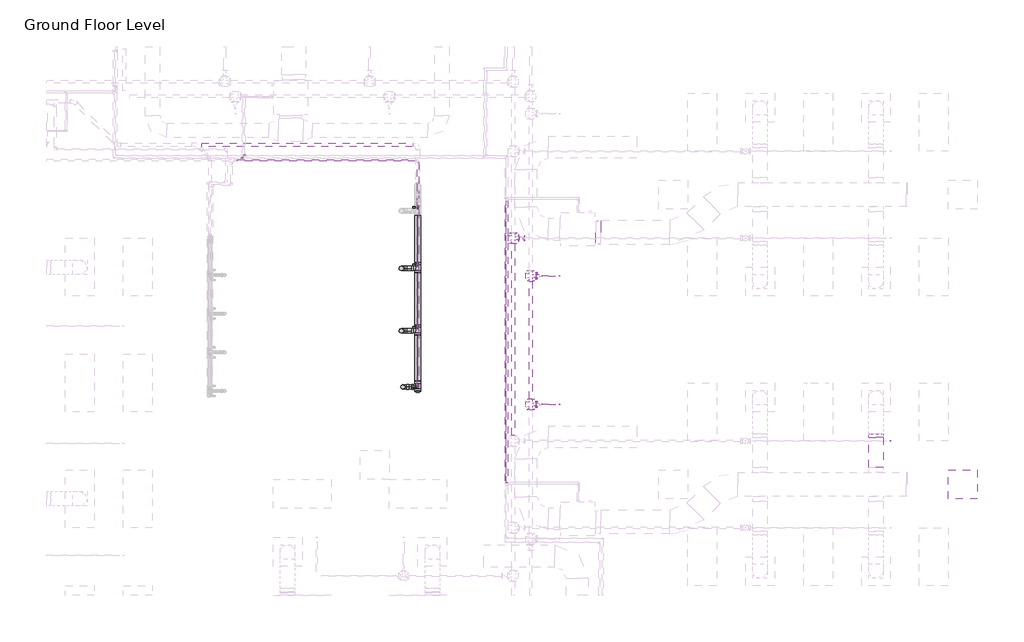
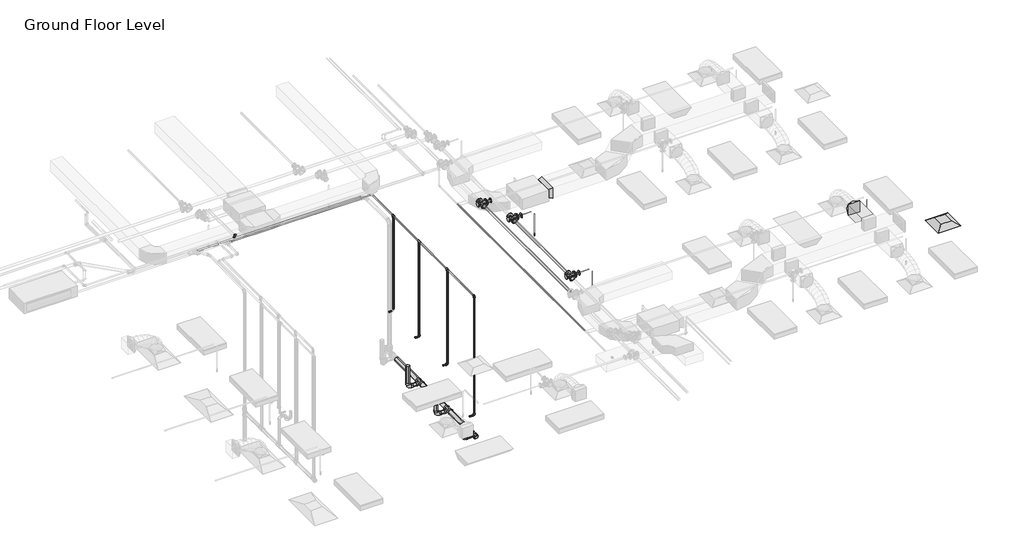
# One storey, part 65 of 74: 32 pipe segments, 24 pipe fittings, 3 fire suppression terminals, 2 duct fittings, 1 air terminal, 1 duct segment.
"""IFC4 building model written with IfcOpenShell, lengths in millimetres."""

from ifc_helpers import new_model, si_unit, point, frame, frame_2d, origin, place, context, project, spatial, polyline, circle_curve, trimmed, segment, composite_curve, outline, extrude, transform, mapped, element, save
from components import m_return_diffuser_600_x_600_face_300_x_300_connection_ff221211, m_rectangular_transition_angle_45_degree_2b595dfe, m_rectangular_to_round_transition_angle_45_degree_641efff0, m_sprinkler_dry_pendent_hosted_15_mm_dry_pendent_9bda8e11, m_sprinkler_pendent_15_mm_pendent_06fcbd8e, m_bend_pvc_sch_40_dwv_standard_a4b99d37, m_plug_pvc_sch_40_dwv_standard_6c40de1c, m_reducer_flanged_cs_class_150_standard_9dfe9ec5, m_reducer_flanged_cs_class_150_standard_a7631c35, m_tee_generic_standard_cdc1cff5, m_tee_generic_standard_bbfc025c, m_tee_reducing_sanitary_pvc_sch_40_dwv_standard_b49161a9, m_tee_round_base_flanged_cs_class_150_standard_dd767e04, m_transition_generic_standard_e9aec4dd, m_transition_generic_standard_c2658a33, standard_517a5a8d, standard_72b35c3b, standard_bfa7e4ca

model = new_model("IFC4")

# Units and contexts
model_context = context("Model", 3, world=origin())
ifc_project = project(units=[si_unit("LENGTHUNIT", "METRE", prefix="MILLI")], contexts=[model_context])

# Site, building, storey
site = spatial("IfcSite", under=ifc_project)
building = spatial("IfcBuilding", under=site)
storey = spatial("IfcBuildingStorey", under=building, Name="Ground Floor Level", Elevation=900.0)

# Air terminal
placement = place(None, origin())
m_return_diffuser_600_x_600_face_300_x_300_connection_shape = m_return_diffuser_600_x_600_face_300_x_300_connection_ff221211(model_context)
element("IfcAirTerminal", 1, ObjectType="M_Return Diffuser : 600 x 600 Face 300 x 300 Connection", at=placement, inside=storey, context=model_context, shape_type="MappedRepresentation", body=[
    mapped(m_return_diffuser_600_x_600_face_300_x_300_connection_shape, transform((14942.7672395, 6735.2153534, 3650.0), x_axis=(1.0, 0.0, 0.0), y_axis=(0.0, 1.0, 0.0), z_axis=(0.0, 0.0, 1.0))),
])

# Duct fittings
m_rectangular_transition_angle_45_degree_shape = m_rectangular_transition_angle_45_degree_2b595dfe(model_context)
element("IfcDuctFitting", 2, ObjectType="M_Rectangular Transition - Angle : 45 Degree", at=placement, inside=storey, context=model_context, shape_type="MappedRepresentation", body=[
    mapped(m_rectangular_transition_angle_45_degree_shape, transform((7344.2139492, 11956.1779527, 4100.0057729), x_axis=(1.0, 0.0, 0.0), y_axis=(0.0, 1.0, 0.0), z_axis=(0.0, 0.0, 1.0))),
])
m_rectangular_to_round_transition_angle_45_degree_shape = m_rectangular_to_round_transition_angle_45_degree_641efff0(model_context)
element("IfcDuctFitting", 3, ObjectType="M_Rectangular to Round Transition - Angle : 45 Degree", at=placement, inside=storey, context=model_context, shape_type="MappedRepresentation", body=[
    mapped(m_rectangular_to_round_transition_angle_45_degree_shape, transform((13142.7672395, 7707.8794221, 4100.0), x_axis=(0.0, 1.0, 0.0), y_axis=(-1.0, 0.0, 0.0), z_axis=(0.0, 0.0, 1.0))),
])

# Duct segment
element("IfcDuctSegment", 4, ObjectType="Radius Elbows / Taps", at=placement, inside=storey, context=model_context, shape_type="SweptSolid", body=[
    extrude(outline(polyline([(13292.7672395, 7086.8153534), (12992.7672395, 7086.8153534), (12992.7672395, 7707.8794221), (13292.7672395, 7707.8794221), (13292.7672395, 7086.8153534)])), frame((0.0, 0.0, 3950.0), z_axis=(0.0, 0.0, 1.0), x_axis=(1.0, 0.0, 0.0)), (0.0, 0.0, 1.0), 300.0),
])

# Fire suppression terminals
m_sprinkler_dry_pendent_hosted_15_mm_dry_pendent_shape = m_sprinkler_dry_pendent_hosted_15_mm_dry_pendent_9bda8e11(model_context)
element("IfcFireSuppressionTerminal", 5, ObjectType="M_Sprinkler - Dry - Pendent - Hosted : 15 mm Dry Pendent", at=placement, inside=storey, context=model_context, shape_type="MappedRepresentation", body=[
    mapped(m_sprinkler_dry_pendent_hosted_15_mm_dry_pendent_shape, transform((13442.7672395, 7635.2153534, 3650.0), x_axis=(1.0, 0.0, 0.0), y_axis=(0.0, -1.0, 0.0), z_axis=(0.0, 0.0, -1.0))),
])
m_sprinkler_pendent_15_mm_pendent_shape = m_sprinkler_pendent_15_mm_pendent_06fcbd8e(model_context)
element("IfcFireSuppressionTerminal", 6, ObjectType="M_Sprinkler - Pendent : 15 mm Pendent", at=placement, inside=storey, context=model_context, shape_type="MappedRepresentation", body=[
    mapped(m_sprinkler_pendent_15_mm_pendent_shape, transform((6592.5481019, 11054.9808263, 3650.0), x_axis=(1.0, 0.0, 0.0), y_axis=(0.0, 1.0, 0.0), z_axis=(0.0, 0.0, 1.0))),
])
element("IfcFireSuppressionTerminal", 7, ObjectType="M_Sprinkler - Pendent : 15 mm Pendent", at=placement, inside=storey, context=model_context, shape_type="MappedRepresentation", body=[
    mapped(m_sprinkler_pendent_15_mm_pendent_shape, transform((6592.5481019, 8393.5579106, 3650.0), x_axis=(1.0, 0.0, 0.0), y_axis=(0.0, 1.0, 0.0), z_axis=(0.0, 0.0, 1.0))),
])

# Pipe fittings
m_bend_pvc_sch_40_dwv_standard_shape = m_bend_pvc_sch_40_dwv_standard_a4b99d37(model_context)
element("IfcPipeFitting", 8, ObjectType="M_Bend - PVC - Sch 40 - DWV : Standard", at=placement, inside=storey, context=model_context, shape_type="MappedRepresentation", body=[
    mapped(m_bend_pvc_sch_40_dwv_standard_shape, transform((3351.3697667, 8754.4159333, 426.6255336), x_axis=(0.0, 0.0, -1.0), y_axis=(1.0, 0.0, 0.0), z_axis=(0.0, -1.0, 0.0))),
])
element("IfcPipeFitting", 9, ObjectType="M_Bend - PVC - Sch 40 - DWV : Standard", at=placement, inside=storey, context=model_context, shape_type="MappedRepresentation", body=[
    mapped(m_bend_pvc_sch_40_dwv_standard_shape, transform((3319.2245422, 9917.654001, 414.9931529), x_axis=(0.0, 0.0, -1.0), y_axis=(1.0, 0.0, 0.0), z_axis=(0.0, -1.0, 0.0))),
])
element("IfcPipeFitting", 10, ObjectType="M_Bend - PVC - Sch 40 - DWV : Standard", at=placement, inside=storey, context=model_context, shape_type="MappedRepresentation", body=[
    mapped(m_bend_pvc_sch_40_dwv_standard_shape, transform((3319.2245422, 11211.6258776, 402.0534342), x_axis=(0.0, 0.0, -1.0), y_axis=(1.0, 0.0, 0.0), z_axis=(0.0, -1.0, 0.0))),
])
m_plug_pvc_sch_40_dwv_standard_shape = m_plug_pvc_sch_40_dwv_standard_6c40de1c(model_context)
element("IfcPipeFitting", 11, ObjectType="M_Plug - PVC - Sch 40 - DWV : Standard", at=placement, inside=storey, context=model_context, shape_type="MappedRepresentation", body=[
    mapped(m_plug_pvc_sch_40_dwv_standard_shape, transform((3657.4922763, 8665.519878, 427.4644942), x_axis=(0.0, -0.9999500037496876, 0.009999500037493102), y_axis=(1.0, 0.0, 0.0), z_axis=(0.0, 0.009999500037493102, 0.9999500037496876))),
])
m_reducer_flanged_cs_class_150_standard_shape = m_reducer_flanged_cs_class_150_standard_9dfe9ec5(model_context)
element("IfcPipeFitting", 12, ObjectType="M_Reducer - Flanged - CS - Class 150 : Standard", at=placement, inside=storey, context=model_context, shape_type="MappedRepresentation", body=[
    mapped(m_reducer_flanged_cs_class_150_standard_shape, transform((6111.057812, 11054.9808263, 4290.0), x_axis=(1.0, 0.0, 0.0), y_axis=(0.0, 0.0, -1.0), z_axis=(0.0, 1.0, 0.0))),
])
element("IfcPipeFitting", 13, ObjectType="M_Reducer - Flanged - CS - Class 150 : Standard", at=placement, inside=storey, context=model_context, shape_type="MappedRepresentation", body=[
    mapped(m_reducer_flanged_cs_class_150_standard_shape, transform((6111.057812, 8393.5579106, 4290.0), x_axis=(1.0, 0.0, 0.0), y_axis=(0.0, 0.0, -1.0), z_axis=(0.0, 1.0, 0.0))),
])
m_reducer_flanged_cs_class_150_standard_2_shape = m_reducer_flanged_cs_class_150_standard_a7631c35(model_context)
element("IfcPipeFitting", 14, ObjectType="M_Reducer - Flanged - CS - Class 150 : Standard", at=placement, inside=storey, context=model_context, shape_type="MappedRepresentation", body=[
    mapped(m_reducer_flanged_cs_class_150_standard_2_shape, transform((5749.869498, 11835.2153534, 4360.0), x_axis=(1.0, 0.0, 0.0), y_axis=(0.0, 0.0, 1.0), z_axis=(0.0, -1.0, 0.0))),
])
m_tee_generic_standard_shape = m_tee_generic_standard_cdc1cff5(model_context)
element("IfcPipeFitting", 15, ObjectType="M_Tee - Generic : Standard", at=placement, inside=storey, context=model_context, shape_type="MappedRepresentation", body=[
    mapped(m_tee_generic_standard_shape, transform((29.9807053, 13494.0185138, 4365.0), x_axis=(-1.0, 0.0, 0.0), y_axis=(0.0, -1.0, 0.0), z_axis=(0.0, 0.0, 1.0))),
])
m_tee_generic_standard_2_shape = m_tee_generic_standard_bbfc025c(model_context)
element("IfcPipeFitting", 16, ObjectType="M_Tee - Generic : Standard", at=placement, inside=storey, context=model_context, shape_type="MappedRepresentation", body=[
    mapped(m_tee_generic_standard_2_shape, transform((79.6672395, 13545.2153534, 4380.0), x_axis=(-1.0, 0.0, 0.0), y_axis=(0.0, -1.0, 0.0), z_axis=(0.0, 0.0, 1.0))),
])
m_tee_reducing_sanitary_pvc_sch_40_dwv_standard_shape = m_tee_reducing_sanitary_pvc_sch_40_dwv_standard_b49161a9(model_context)
element("IfcPipeFitting", 17, ObjectType="M_Tee Reducing Sanitary - PVC - Sch 40 - DWV : Standard", at=placement, inside=storey, context=model_context, shape_type="MappedRepresentation", body=[
    mapped(m_tee_reducing_sanitary_pvc_sch_40_dwv_standard_shape, transform((3657.4922763, 8754.4154334, 426.5755386), x_axis=(0.0, -0.9999500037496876, 0.009999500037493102), y_axis=(1.0, 0.0, 0.0), z_axis=(0.0, 0.009999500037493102, 0.9999500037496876))),
])
element("IfcPipeFitting", 18, ObjectType="M_Tee Reducing Sanitary - PVC - Sch 40 - DWV : Standard", at=placement, inside=storey, context=model_context, shape_type="MappedRepresentation", body=[
    mapped(m_tee_reducing_sanitary_pvc_sch_40_dwv_standard_shape, transform((3657.4922763, 9917.6535011, 414.9431579), x_axis=(0.0, -0.9999500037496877, 0.009999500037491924), y_axis=(1.0000000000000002, 0.0, 0.0), z_axis=(0.0, 0.009999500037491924, 0.9999500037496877))),
])
element("IfcPipeFitting", 19, ObjectType="M_Tee Reducing Sanitary - PVC - Sch 40 - DWV : Standard", at=placement, inside=storey, context=model_context, shape_type="MappedRepresentation", body=[
    mapped(m_tee_reducing_sanitary_pvc_sch_40_dwv_standard_shape, transform((3657.4922763, 11211.6253777, 402.0034392), x_axis=(0.0, -0.9999500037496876, 0.00999950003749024), y_axis=(1.0, 0.0, 0.0), z_axis=(0.0, 0.00999950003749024, 0.9999500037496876))),
])
m_tee_round_base_flanged_cs_class_150_standard_shape = m_tee_round_base_flanged_cs_class_150_standard_dd767e04(model_context)
element("IfcPipeFitting", 20, ObjectType="M_Tee Round Base - Flanged - CS - Class 150 : Standard", at=placement, inside=storey, context=model_context, shape_type="MappedRepresentation", body=[
    mapped(m_tee_round_base_flanged_cs_class_150_standard_shape, transform((5997.057812, 11054.9808263, 4290.0), x_axis=(0.0, 1.0, 0.0), y_axis=(-1.0, 0.0, 0.0), z_axis=(0.0, 0.0, 1.0))),
])
element("IfcPipeFitting", 21, ObjectType="M_Tee Round Base - Flanged - CS - Class 150 : Standard", at=placement, inside=storey, context=model_context, shape_type="MappedRepresentation", body=[
    mapped(m_tee_round_base_flanged_cs_class_150_standard_shape, transform((5997.057812, 8393.5579106, 4290.0), x_axis=(0.0, 1.0, 0.0), y_axis=(-1.0, 0.0, 0.0), z_axis=(0.0, 0.0, 1.0))),
])
element("IfcPipeFitting", 22, ObjectType="M_Tee Round Base - Flanged - CS - Class 150 : Standard", at=placement, inside=storey, context=model_context, shape_type="MappedRepresentation", body=[
    mapped(m_tee_round_base_flanged_cs_class_150_standard_shape, transform((5635.869498, 11835.2153534, 4360.0), x_axis=(0.0, 1.0, 0.0), y_axis=(-1.0, 0.0, 0.0), z_axis=(0.0, 0.0, 1.0))),
])
m_transition_generic_standard_shape = m_transition_generic_standard_e9aec4dd(model_context)
element("IfcPipeFitting", 23, ObjectType="M_Transition - Generic : Standard", at=placement, inside=storey, context=model_context, shape_type="MappedRepresentation", body=[
    mapped(m_transition_generic_standard_shape, transform((79.6672395, 13570.6153534, 4380.0), x_axis=(0.0, 1.0, 0.0), y_axis=(-1.0, 0.0, 0.0), z_axis=(0.0, 0.0, 1.0))),
])
m_transition_generic_standard_2_shape = m_transition_generic_standard_c2658a33(model_context)
element("IfcPipeFitting", 24, ObjectType="M_Transition - Generic : Standard", at=placement, inside=storey, context=model_context, shape_type="MappedRepresentation", body=[
    mapped(m_transition_generic_standard_2_shape, transform((29.9807053, 13516.2435138, 4365.0), x_axis=(0.0, 1.0, 0.0), y_axis=(-1.0, 0.0, 0.0), z_axis=(0.0, 0.0, 1.0))),
])
standard_shape = standard_517a5a8d(model_context)
element("IfcPipeFitting", 25, ObjectType="M_Elbow - CPVC - Sch 40 : Standard", at=placement, inside=storey, context=model_context, shape_type="MappedRepresentation", body=[
    mapped(standard_shape, transform((3662.4674395, 8754.4154334, 4315.0), x_axis=(0.0, -1.0, 0.0), y_axis=(0.0, 0.0, -1.0), z_axis=(1.0, 0.0, 0.0))),
])
element("IfcPipeFitting", 26, ObjectType="M_Elbow - CPVC - Sch 40 : Standard", at=placement, inside=storey, context=model_context, shape_type="MappedRepresentation", body=[
    mapped(standard_shape, transform((3662.4674395, 9991.0922673, 1655.0), x_axis=(0.0, 0.0, -1.0), y_axis=(-1.0, 0.0, 0.0), z_axis=(0.0, 1.0, 0.0))),
])
element("IfcPipeFitting", 27, ObjectType="M_Elbow - CPVC - Sch 40 : Standard", at=placement, inside=storey, context=model_context, shape_type="MappedRepresentation", body=[
    mapped(standard_shape, transform((3662.4674395, 11285.0641439, 1655.0), x_axis=(0.0, 0.0, -1.0), y_axis=(-1.0, 0.0, 0.0), z_axis=(0.0, 1.0, 0.0))),
])
standard_2_shape = standard_72b35c3b(model_context)
element("IfcPipeFitting", 28, ObjectType="M_Tee - CPVC - Sch 40 : Standard", at=placement, inside=storey, context=model_context, shape_type="MappedRepresentation", body=[
    mapped(standard_2_shape, transform((3662.4674395, 9991.0922673, 4315.0), x_axis=(0.0, -1.0, 0.0), y_axis=(0.0, 0.0, 1.0), z_axis=(-1.0, 0.0, 0.0))),
])
element("IfcPipeFitting", 29, ObjectType="M_Tee - CPVC - Sch 40 : Standard", at=placement, inside=storey, context=model_context, shape_type="MappedRepresentation", body=[
    mapped(standard_2_shape, transform((3662.4674395, 11285.0641439, 4315.0), x_axis=(0.0, -1.0, 0.0), y_axis=(0.0, 0.0, 1.0), z_axis=(-1.0, 0.0, 0.0))),
])
element("IfcPipeFitting", 30, ObjectType="M_Tee - CPVC - Sch 40 : Standard", at=placement, inside=storey, context=model_context, shape_type="MappedRepresentation", body=[
    mapped(standard_2_shape, transform((3662.4674395, 12474.4768272, 4315.0), x_axis=(0.0, -1.0, 0.0), y_axis=(0.0, 0.0, 1.0), z_axis=(-1.0, 0.0, 0.0))),
])
standard_3_shape = standard_bfa7e4ca(model_context)
element("IfcPipeFitting", 31, ObjectType="M_Elbow - CPVC - Sch 40 : Standard", at=placement, inside=storey, context=model_context, shape_type="MappedRepresentation", body=[
    mapped(standard_3_shape, transform((3662.4674395, 8754.4154334, 983.5), x_axis=(0.0, 0.0, -1.0), y_axis=(-1.0, 0.0, 0.0), z_axis=(0.0, 1.0, 0.0))),
])

# Pipe segments
element("IfcPipeSegment", 32, ObjectType="CPVC", at=placement, inside=storey, context=model_context, shape_type="SweptSolid", body=[
    extrude(outline(composite_curve([segment(trimmed(circle_curve(frame_2d((13449.9865561, 4315.0)), 16.7005), [point((13433.2860561, 4315.0))], [point((13449.9865561, 4331.7005))], False, "CARTESIAN"), True, "CONTINUOUS"), segment(trimmed(circle_curve(frame_2d((13449.9865561, 4315.0)), 16.7005), [point((13449.9865561, 4331.7005))], [point((13466.6870561, 4315.0))], False, "CARTESIAN"), True, "CONTINUOUS"), segment(trimmed(circle_curve(frame_2d((13449.9865561, 4315.0)), 16.7005), [point((13466.6870561, 4315.0))], [point((13449.9865561, 4298.2995))], False, "CARTESIAN"), True, "CONTINUOUS"), segment(trimmed(circle_curve(frame_2d((13449.9865561, 4315.0)), 16.7005), [point((13449.9865561, 4298.2995))], [point((13433.2860561, 4315.0))], False, "CARTESIAN"), True, "CONTINUOUS")], self_intersect=False)), frame((-77.1388855, 0.0, 0.0), z_axis=(1.0, 0.0, 0.0), x_axis=(0.0, 1.0, 0.0)), (0.0, 0.0, 1.0), 3696.343775),
])
element("IfcPipeSegment", 33, ObjectType="CPVC", at=placement, inside=storey, context=model_context, shape_type="SweptSolid", body=[
    extrude(outline(composite_curve([segment(trimmed(circle_curve(frame_2d((8754.4154334, 983.4999927)), 16.7005), [point((8771.1159334, 983.4999927))], [point((8754.4154334, 966.7994927))], False, "CARTESIAN"), True, "CONTINUOUS"), segment(trimmed(circle_curve(frame_2d((8754.4154334, 983.4999927)), 16.7005), [point((8754.4154334, 966.7994927))], [point((8737.7149334, 983.4999927))], False, "CARTESIAN"), True, "CONTINUOUS"), segment(trimmed(circle_curve(frame_2d((8754.4154334, 983.4999927)), 16.7005), [point((8737.7149334, 983.4999927))], [point((8754.4154334, 1000.2004927))], False, "CARTESIAN"), True, "CONTINUOUS"), segment(trimmed(circle_curve(frame_2d((8754.4154334, 983.4999927)), 16.7005), [point((8754.4154334, 1000.2004927))], [point((8771.1159334, 983.4999927))], False, "CARTESIAN"), True, "CONTINUOUS")], self_intersect=False)), frame((3537.5384422, 0.0, 0.0), z_axis=(1.0, 0.0, 0.0), x_axis=(0.0, 1.0, 0.0)), (0.0, 0.0, 1.0), 81.6664508),
])
element("IfcPipeSegment", 34, ObjectType="CPVC", at=placement, inside=storey, context=model_context, shape_type="SweptSolid", body=[
    extrude(outline(composite_curve([segment(trimmed(circle_curve(frame_2d((3662.4674395, 8754.4154334)), 16.7005), [point((3679.1679395, 8754.4154334))], [point((3662.4674395, 8737.7149334))], False, "CARTESIAN"), True, "CONTINUOUS"), segment(trimmed(circle_curve(frame_2d((3662.4674395, 8754.4154334)), 16.7005), [point((3662.4674395, 8737.7149334))], [point((3645.7669395, 8754.4154334))], False, "CARTESIAN"), True, "CONTINUOUS"), segment(trimmed(circle_curve(frame_2d((3662.4674395, 8754.4154334)), 16.7005), [point((3645.7669395, 8754.4154334))], [point((3662.4674395, 8771.1159334))], False, "CARTESIAN"), True, "CONTINUOUS"), segment(trimmed(circle_curve(frame_2d((3662.4674395, 8754.4154334)), 16.7005), [point((3662.4674395, 8771.1159334))], [point((3679.1679395, 8754.4154334))], False, "CARTESIAN"), True, "CONTINUOUS")], self_intersect=False)), frame((0.0, 0.0, 1026.7625464), z_axis=(0.0, 0.0, 1.0), x_axis=(1.0, 0.0, 0.0)), (0.0, 0.0, 1.0), 3244.9749036),
])
element("IfcPipeSegment", 35, ObjectType="CPVC", at=placement, inside=storey, context=model_context, shape_type="SweptSolid", body=[
    extrude(outline(composite_curve([segment(trimmed(circle_curve(frame_2d((4315.0, 3662.4674395)), 16.7005), [point((4315.0, 3645.7669395))], [point((4298.2995, 3662.4674395))], False, "CARTESIAN"), True, "CONTINUOUS"), segment(trimmed(circle_curve(frame_2d((4315.0, 3662.4674395)), 16.7005), [point((4298.2995, 3662.4674395))], [point((4315.0, 3679.1679395))], False, "CARTESIAN"), True, "CONTINUOUS"), segment(trimmed(circle_curve(frame_2d((4315.0, 3662.4674395)), 16.7005), [point((4315.0, 3679.1679395))], [point((4331.7005, 3662.4674395))], False, "CARTESIAN"), True, "CONTINUOUS"), segment(trimmed(circle_curve(frame_2d((4315.0, 3662.4674395)), 16.7005), [point((4331.7005, 3662.4674395))], [point((4315.0, 3645.7669395))], False, "CARTESIAN"), True, "CONTINUOUS")], self_intersect=False)), frame((0.0, 8797.6779834, 0.0), z_axis=(0.0, 1.0, 0.0), x_axis=(0.0, 0.0, 1.0)), (0.0, 0.0, 1.0), 1153.7140839),
])
element("IfcPipeSegment", 36, ObjectType="CPVC", at=placement, inside=storey, context=model_context, shape_type="SweptSolid", body=[
    extrude(outline(composite_curve([segment(trimmed(circle_curve(frame_2d((9991.0922673, 1655.0)), 16.7005), [point((10007.7927673, 1655.0))], [point((9991.0922673, 1638.2995))], False, "CARTESIAN"), True, "CONTINUOUS"), segment(trimmed(circle_curve(frame_2d((9991.0922673, 1655.0)), 16.7005), [point((9991.0922673, 1638.2995))], [point((9974.3917673, 1655.0))], False, "CARTESIAN"), True, "CONTINUOUS"), segment(trimmed(circle_curve(frame_2d((9991.0922673, 1655.0)), 16.7005), [point((9974.3917673, 1655.0))], [point((9991.0922673, 1671.7005))], False, "CARTESIAN"), True, "CONTINUOUS"), segment(trimmed(circle_curve(frame_2d((9991.0922673, 1655.0)), 16.7005), [point((9991.0922673, 1671.7005))], [point((10007.7927673, 1655.0))], False, "CARTESIAN"), True, "CONTINUOUS")], self_intersect=False)), frame((3552.7672395, 0.0, 0.0), z_axis=(1.0, 0.0, 0.0), x_axis=(0.0, 1.0, 0.0)), (0.0, 0.0, 1.0), 66.43765),
])
element("IfcPipeSegment", 37, ObjectType="CPVC", at=placement, inside=storey, context=model_context, shape_type="SweptSolid", body=[
    extrude(outline(composite_curve([segment(trimmed(circle_curve(frame_2d((3662.4674395, 9991.0922673)), 16.7005), [point((3679.1679395, 9991.0922673))], [point((3662.4674395, 9974.3917673))], False, "CARTESIAN"), True, "CONTINUOUS"), segment(trimmed(circle_curve(frame_2d((3662.4674395, 9991.0922673)), 16.7005), [point((3662.4674395, 9974.3917673))], [point((3645.7669395, 9991.0922673))], False, "CARTESIAN"), True, "CONTINUOUS"), segment(trimmed(circle_curve(frame_2d((3662.4674395, 9991.0922673)), 16.7005), [point((3645.7669395, 9991.0922673))], [point((3662.4674395, 10007.7927673))], False, "CARTESIAN"), True, "CONTINUOUS"), segment(trimmed(circle_curve(frame_2d((3662.4674395, 9991.0922673)), 16.7005), [point((3662.4674395, 10007.7927673))], [point((3679.1679395, 9991.0922673))], False, "CARTESIAN"), True, "CONTINUOUS")], self_intersect=False)), frame((0.0, 0.0, 1698.26255), z_axis=(0.0, 0.0, 1.0), x_axis=(1.0, 0.0, 0.0)), (0.0, 0.0, 1.0), 2577.03725),
])
element("IfcPipeSegment", 38, ObjectType="CPVC", at=placement, inside=storey, context=model_context, shape_type="SweptSolid", body=[
    extrude(outline(composite_curve([segment(trimmed(circle_curve(frame_2d((4315.0, 3662.4674395)), 16.7005), [point((4315.0, 3645.7669395))], [point((4298.2995, 3662.4674395))], False, "CARTESIAN"), True, "CONTINUOUS"), segment(trimmed(circle_curve(frame_2d((4315.0, 3662.4674395)), 16.7005), [point((4298.2995, 3662.4674395))], [point((4315.0, 3679.1679395))], False, "CARTESIAN"), True, "CONTINUOUS"), segment(trimmed(circle_curve(frame_2d((4315.0, 3662.4674395)), 16.7005), [point((4315.0, 3679.1679395))], [point((4331.7005, 3662.4674395))], False, "CARTESIAN"), True, "CONTINUOUS"), segment(trimmed(circle_curve(frame_2d((4315.0, 3662.4674395)), 16.7005), [point((4331.7005, 3662.4674395))], [point((4315.0, 3645.7669395))], False, "CARTESIAN"), True, "CONTINUOUS")], self_intersect=False)), frame((0.0, 10030.7924673, 0.0), z_axis=(0.0, 1.0, 0.0), x_axis=(0.0, 0.0, 1.0)), (0.0, 0.0, 1.0), 1214.5714766),
])
element("IfcPipeSegment", 39, ObjectType="CPVC", at=placement, inside=storey, context=model_context, shape_type="SweptSolid", body=[
    extrude(outline(composite_curve([segment(trimmed(circle_curve(frame_2d((11285.0641439, 1655.0)), 16.7005), [point((11301.7646439, 1655.0))], [point((11285.0641439, 1638.2995))], False, "CARTESIAN"), True, "CONTINUOUS"), segment(trimmed(circle_curve(frame_2d((11285.0641439, 1655.0)), 16.7005), [point((11285.0641439, 1638.2995))], [point((11268.3636439, 1655.0))], False, "CARTESIAN"), True, "CONTINUOUS"), segment(trimmed(circle_curve(frame_2d((11285.0641439, 1655.0)), 16.7005), [point((11268.3636439, 1655.0))], [point((11285.0641439, 1671.7005))], False, "CARTESIAN"), True, "CONTINUOUS"), segment(trimmed(circle_curve(frame_2d((11285.0641439, 1655.0)), 16.7005), [point((11285.0641439, 1671.7005))], [point((11301.7646439, 1655.0))], False, "CARTESIAN"), True, "CONTINUOUS")], self_intersect=False)), frame((3552.7672395, 0.0, 0.0), z_axis=(1.0, 0.0, 0.0), x_axis=(0.0, 1.0, 0.0)), (0.0, 0.0, 1.0), 66.43765),
])
element("IfcPipeSegment", 40, ObjectType="CPVC", at=placement, inside=storey, context=model_context, shape_type="SweptSolid", body=[
    extrude(outline(composite_curve([segment(trimmed(circle_curve(frame_2d((3662.4674395, 11285.0641439)), 16.7005), [point((3679.1679395, 11285.0641439))], [point((3662.4674395, 11268.3636439))], False, "CARTESIAN"), True, "CONTINUOUS"), segment(trimmed(circle_curve(frame_2d((3662.4674395, 11285.0641439)), 16.7005), [point((3662.4674395, 11268.3636439))], [point((3645.7669395, 11285.0641439))], False, "CARTESIAN"), True, "CONTINUOUS"), segment(trimmed(circle_curve(frame_2d((3662.4674395, 11285.0641439)), 16.7005), [point((3645.7669395, 11285.0641439))], [point((3662.4674395, 11301.7646439))], False, "CARTESIAN"), True, "CONTINUOUS"), segment(trimmed(circle_curve(frame_2d((3662.4674395, 11285.0641439)), 16.7005), [point((3662.4674395, 11301.7646439))], [point((3679.1679395, 11285.0641439))], False, "CARTESIAN"), True, "CONTINUOUS")], self_intersect=False)), frame((0.0, 0.0, 1698.26255), z_axis=(0.0, 0.0, 1.0), x_axis=(1.0, 0.0, 0.0)), (0.0, 0.0, 1.0), 2577.03725),
])
element("IfcPipeSegment", 41, ObjectType="CPVC", at=placement, inside=storey, context=model_context, shape_type="SweptSolid", body=[
    extrude(outline(composite_curve([segment(trimmed(circle_curve(frame_2d((4315.0, 3662.4674395)), 16.7005), [point((4315.0, 3645.7669395))], [point((4298.2995, 3662.4674395))], False, "CARTESIAN"), True, "CONTINUOUS"), segment(trimmed(circle_curve(frame_2d((4315.0, 3662.4674395)), 16.7005), [point((4298.2995, 3662.4674395))], [point((4315.0, 3679.1679395))], False, "CARTESIAN"), True, "CONTINUOUS"), segment(trimmed(circle_curve(frame_2d((4315.0, 3662.4674395)), 16.7005), [point((4315.0, 3679.1679395))], [point((4331.7005, 3662.4674395))], False, "CARTESIAN"), True, "CONTINUOUS"), segment(trimmed(circle_curve(frame_2d((4315.0, 3662.4674395)), 16.7005), [point((4331.7005, 3662.4674395))], [point((4315.0, 3645.7669395))], False, "CARTESIAN"), True, "CONTINUOUS")], self_intersect=False)), frame((0.0, 11324.7643439, 0.0), z_axis=(0.0, 1.0, 0.0), x_axis=(0.0, 0.0, 1.0)), (0.0, 0.0, 1.0), 1110.0122833),
])
element("IfcPipeSegment", 42, ObjectType="CPVC", at=placement, inside=storey, context=model_context, shape_type="SweptSolid", body=[
    extrude(outline(composite_curve([segment(trimmed(circle_curve(frame_2d((12474.4768272, 1655.0)), 16.7005), [point((12491.1773272, 1655.0))], [point((12474.4768272, 1638.2995))], False, "CARTESIAN"), True, "CONTINUOUS"), segment(trimmed(circle_curve(frame_2d((12474.4768272, 1655.0)), 16.7005), [point((12474.4768272, 1638.2995))], [point((12457.7763272, 1655.0))], False, "CARTESIAN"), True, "CONTINUOUS"), segment(trimmed(circle_curve(frame_2d((12474.4768272, 1655.0)), 16.7005), [point((12457.7763272, 1655.0))], [point((12474.4768272, 1671.7005))], False, "CARTESIAN"), True, "CONTINUOUS"), segment(trimmed(circle_curve(frame_2d((12474.4768272, 1655.0)), 16.7005), [point((12474.4768272, 1671.7005))], [point((12491.1773272, 1655.0))], False, "CARTESIAN"), True, "CONTINUOUS")], self_intersect=False)), frame((3552.7672395, 0.0, 0.0), z_axis=(1.0, 0.0, 0.0), x_axis=(0.0, 1.0, 0.0)), (0.0, 0.0, 1.0), 66.43765),
])
element("IfcPipeSegment", 43, ObjectType="CPVC", at=placement, inside=storey, context=model_context, shape_type="SweptSolid", body=[
    extrude(outline(composite_curve([segment(trimmed(circle_curve(frame_2d((3662.4674395, 12474.4768272)), 16.7005), [point((3679.1679395, 12474.4768272))], [point((3662.4674395, 12457.7763272))], False, "CARTESIAN"), True, "CONTINUOUS"), segment(trimmed(circle_curve(frame_2d((3662.4674395, 12474.4768272)), 16.7005), [point((3662.4674395, 12457.7763272))], [point((3645.7669395, 12474.4768272))], False, "CARTESIAN"), True, "CONTINUOUS"), segment(trimmed(circle_curve(frame_2d((3662.4674395, 12474.4768272)), 16.7005), [point((3645.7669395, 12474.4768272))], [point((3662.4674395, 12491.1773272))], False, "CARTESIAN"), True, "CONTINUOUS"), segment(trimmed(circle_curve(frame_2d((3662.4674395, 12474.4768272)), 16.7005), [point((3662.4674395, 12491.1773272))], [point((3679.1679395, 12474.4768272))], False, "CARTESIAN"), True, "CONTINUOUS")], self_intersect=False)), frame((0.0, 0.0, 1698.26255), z_axis=(0.0, 0.0, 1.0), x_axis=(1.0, 0.0, 0.0)), (0.0, 0.0, 1.0), 2577.03725),
])
element("IfcPipeSegment", 44, ObjectType="CPVC", at=placement, inside=storey, context=model_context, shape_type="SweptSolid", body=[
    extrude(outline(composite_curve([segment(trimmed(circle_curve(frame_2d((4315.0, 3662.4674395)), 16.7005), [point((4315.0, 3645.7669395))], [point((4298.2995, 3662.4674395))], False, "CARTESIAN"), True, "CONTINUOUS"), segment(trimmed(circle_curve(frame_2d((4315.0, 3662.4674395)), 16.7005), [point((4298.2995, 3662.4674395))], [point((4315.0, 3679.1679395))], False, "CARTESIAN"), True, "CONTINUOUS"), segment(trimmed(circle_curve(frame_2d((4315.0, 3662.4674395)), 16.7005), [point((4315.0, 3679.1679395))], [point((4331.7005, 3662.4674395))], False, "CARTESIAN"), True, "CONTINUOUS"), segment(trimmed(circle_curve(frame_2d((4315.0, 3662.4674395)), 16.7005), [point((4331.7005, 3662.4674395))], [point((4315.0, 3645.7669395))], False, "CARTESIAN"), True, "CONTINUOUS")], self_intersect=False)), frame((0.0, 12514.1770272, 0.0), z_axis=(0.0, 1.0, 0.0), x_axis=(0.0, 0.0, 1.0)), (0.0, 0.0, 1.0), 892.546979),
])
element("IfcPipeSegment", 45, ObjectType="Copper", at=placement, inside=storey, context=model_context, shape_type="SweptSolid", body=[
    extrude(outline(composite_curve([segment(trimmed(circle_curve(frame_2d((3851.8370709, 5505.0672395)), 11.5), [point((3851.8370709, 5493.5672395))], [point((3840.3370709, 5505.0672395))], False, "CARTESIAN"), True, "CONTINUOUS"), segment(trimmed(circle_curve(frame_2d((3851.8370709, 5505.0672395)), 11.5), [point((3840.3370709, 5505.0672395))], [point((3851.8370709, 5516.5672395))], False, "CARTESIAN"), True, "CONTINUOUS"), segment(trimmed(circle_curve(frame_2d((3851.8370709, 5505.0672395)), 11.5), [point((3851.8370709, 5516.5672395))], [point((3863.3370709, 5505.0672395))], False, "CARTESIAN"), True, "CONTINUOUS"), segment(trimmed(circle_curve(frame_2d((3851.8370709, 5505.0672395)), 11.5), [point((3863.3370709, 5505.0672395))], [point((3851.8370709, 5493.5672395))], False, "CARTESIAN"), True, "CONTINUOUS")], self_intersect=False)), frame((0.0, 6766.8098545, 0.0), z_axis=(0.0, 1.0, 0.0), x_axis=(0.0, 0.0, 1.0)), (0.0, 0.0, 1.0), 5849.2),
])
element("IfcPipeSegment", 46, ObjectType="Copper", at=placement, inside=storey, context=model_context, shape_type="SweptSolid", body=[
    extrude(outline(composite_curve([segment(trimmed(circle_curve(frame_2d((3894.9, 5472.2057053)), 8.1), [point((3894.9, 5464.1057053))], [point((3886.8, 5472.2057053))], False, "CARTESIAN"), True, "CONTINUOUS"), segment(trimmed(circle_curve(frame_2d((3894.9, 5472.2057053)), 8.1), [point((3886.8, 5472.2057053))], [point((3894.9, 5480.3057053))], False, "CARTESIAN"), True, "CONTINUOUS"), segment(trimmed(circle_curve(frame_2d((3894.9, 5472.2057053)), 8.1), [point((3894.9, 5480.3057053))], [point((3903.0, 5472.2057053))], False, "CARTESIAN"), True, "CONTINUOUS"), segment(trimmed(circle_curve(frame_2d((3894.9, 5472.2057053)), 8.1), [point((3903.0, 5472.2057053))], [point((3894.9, 5464.1057053))], False, "CARTESIAN"), True, "CONTINUOUS")], self_intersect=False)), frame((0.0, 6803.7503374, 0.0), z_axis=(0.0, 1.0, 0.0), x_axis=(0.0, 0.0, 1.0)), (0.0, 0.0, 1.0), 5855.55),
])
element("IfcPipeSegment", 47, ObjectType="PVC - DWV", at=placement, inside=storey, context=model_context, shape_type="SweptSolid", body=[
    extrude(outline(composite_curve([segment(trimmed(circle_curve(frame_2d((0.0, -44.45)), 44.45), [point((-44.45, -44.45))], [point((0.0, 0.0))], False, "CARTESIAN"), True, "CONTINUOUS"), segment(trimmed(circle_curve(frame_2d((0.0, -44.45)), 44.45), [point((0.0, 0.0))], [point((44.45, -44.45))], False, "CARTESIAN"), True, "CONTINUOUS"), segment(trimmed(circle_curve(frame_2d((0.0, -44.45)), 44.45), [point((44.45, -44.45))], [point((0.0, -88.9))], False, "CARTESIAN"), True, "CONTINUOUS"), segment(trimmed(circle_curve(frame_2d((0.0, -44.45)), 44.45), [point((0.0, -88.9))], [point((-44.45, -44.45))], False, "CARTESIAN"), True, "CONTINUOUS")], self_intersect=False)), frame((3351.3697667, 8709.9659333, 542.5256565), z_axis=(0.0, -1.7350781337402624e-06, 0.9999999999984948), x_axis=(-1.0, 0.0, 0.0)), (0.0, 0.0, 1.0), 288.142643),
])
element("IfcPipeSegment", 48, ObjectType="PVC - DWV", at=placement, inside=storey, context=model_context, shape_type="SweptSolid", body=[
    extrude(outline(composite_curve([segment(trimmed(circle_curve(frame_2d((8754.4154334, 426.5755386)), 44.45), [point((8709.9654334, 426.5755386))], [point((8754.4154334, 471.0255386))], False, "CARTESIAN"), True, "CONTINUOUS"), segment(trimmed(circle_curve(frame_2d((8754.4154334, 426.5755386)), 44.45), [point((8754.4154334, 471.0255386))], [point((8798.8654334, 426.5755386))], False, "CARTESIAN"), True, "CONTINUOUS"), segment(trimmed(circle_curve(frame_2d((8754.4154334, 426.5755386)), 44.45), [point((8798.8654334, 426.5755386))], [point((8754.4154334, 382.1255386))], False, "CARTESIAN"), True, "CONTINUOUS"), segment(trimmed(circle_curve(frame_2d((8754.4154334, 426.5755386)), 44.45), [point((8754.4154334, 382.1255386))], [point((8709.9654334, 426.5755386))], False, "CARTESIAN"), True, "CONTINUOUS")], self_intersect=False)), frame((3467.2699667, 0.0, 0.0), z_axis=(1.0, 0.0, 0.0), x_axis=(0.0, 1.0, 0.0)), (0.0, 0.0, 1.0), 61.6221096),
])
element("IfcPipeSegment", 49, ObjectType="PVC - DWV", at=placement, inside=storey, context=model_context, shape_type="SweptSolid", body=[
    extrude(outline(composite_curve([segment(trimmed(circle_curve(frame_2d((0.0, -44.45)), 44.45), [point((-44.45, -44.45))], [point((0.0, 0.0))], False, "CARTESIAN"), True, "CONTINUOUS"), segment(trimmed(circle_curve(frame_2d((0.0, -44.45)), 44.45), [point((0.0, 0.0))], [point((44.45, -44.45))], False, "CARTESIAN"), True, "CONTINUOUS"), segment(trimmed(circle_curve(frame_2d((0.0, -44.45)), 44.45), [point((44.45, -44.45))], [point((0.0, -88.9))], False, "CARTESIAN"), True, "CONTINUOUS"), segment(trimmed(circle_curve(frame_2d((0.0, -44.45)), 44.45), [point((0.0, -88.9))], [point((-44.45, -44.45))], False, "CARTESIAN"), True, "CONTINUOUS")], self_intersect=False)), frame((3319.2245422, 9873.204001, 530.8933045), z_axis=(0.0, -1.0889626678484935e-06, 0.9999999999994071), x_axis=(-1.0, 0.0, 0.0)), (0.0, 0.0, 1.0), 459.1066471),
])
element("IfcPipeSegment", 50, ObjectType="PVC - DWV", at=placement, inside=storey, context=model_context, shape_type="SweptSolid", body=[
    extrude(outline(composite_curve([segment(trimmed(circle_curve(frame_2d((9917.6535011, 414.9431579)), 44.45), [point((9873.2035011, 414.9431579))], [point((9917.6535011, 459.3931579))], False, "CARTESIAN"), True, "CONTINUOUS"), segment(trimmed(circle_curve(frame_2d((9917.6535011, 414.9431579)), 44.45), [point((9917.6535011, 459.3931579))], [point((9962.1035011, 414.9431579))], False, "CARTESIAN"), True, "CONTINUOUS"), segment(trimmed(circle_curve(frame_2d((9917.6535011, 414.9431579)), 44.45), [point((9962.1035011, 414.9431579))], [point((9917.6535011, 370.4931579))], False, "CARTESIAN"), True, "CONTINUOUS"), segment(trimmed(circle_curve(frame_2d((9917.6535011, 414.9431579)), 44.45), [point((9917.6535011, 370.4931579))], [point((9873.2035011, 414.9431579))], False, "CARTESIAN"), True, "CONTINUOUS")], self_intersect=False)), frame((3435.1247422, 0.0, 0.0), z_axis=(1.0, 0.0, 0.0), x_axis=(0.0, 1.0, 0.0)), (0.0, 0.0, 1.0), 93.767334),
])
element("IfcPipeSegment", 51, ObjectType="PVC - DWV", at=placement, inside=storey, context=model_context, shape_type="SweptSolid", body=[
    extrude(outline(composite_curve([segment(trimmed(circle_curve(frame_2d((0.0, -57.15)), 57.15), [point((57.15, -57.15))], [point((0.0, -114.3))], False, "CARTESIAN"), True, "CONTINUOUS"), segment(trimmed(circle_curve(frame_2d((0.0, -57.15)), 57.15), [point((0.0, -114.3))], [point((-57.15, -57.15))], False, "CARTESIAN"), True, "CONTINUOUS"), segment(trimmed(circle_curve(frame_2d((0.0, -57.15)), 57.15), [point((-57.15, -57.15))], [point((0.0, 0.0))], False, "CARTESIAN"), True, "CONTINUOUS"), segment(trimmed(circle_curve(frame_2d((0.0, -57.15)), 57.15), [point((0.0, 0.0))], [point((57.15, -57.15))], False, "CARTESIAN"), True, "CONTINUOUS")], self_intersect=False)), frame((3657.4922763, 9829.3294172, 472.9792562), z_axis=(0.0, -0.9999500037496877, 0.009999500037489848), x_axis=(1.0, 0.0, 0.0)), (0.0, 0.0, 1.0), 953.7462281),
])
element("IfcPipeSegment", 52, ObjectType="PVC - DWV", at=placement, inside=storey, context=model_context, shape_type="SweptSolid", body=[
    extrude(outline(composite_curve([segment(trimmed(circle_curve(frame_2d((0.0, -44.45)), 44.45), [point((-44.45, -44.45))], [point((0.0, 0.0))], False, "CARTESIAN"), True, "CONTINUOUS"), segment(trimmed(circle_curve(frame_2d((0.0, -44.45)), 44.45), [point((0.0, 0.0))], [point((44.45, -44.45))], False, "CARTESIAN"), True, "CONTINUOUS"), segment(trimmed(circle_curve(frame_2d((0.0, -44.45)), 44.45), [point((44.45, -44.45))], [point((0.0, -88.9))], False, "CARTESIAN"), True, "CONTINUOUS"), segment(trimmed(circle_curve(frame_2d((0.0, -44.45)), 44.45), [point((0.0, -88.9))], [point((-44.45, -44.45))], False, "CARTESIAN"), True, "CONTINUOUS")], self_intersect=False)), frame((3319.2245422, 11167.1758776, 517.9535871), z_axis=(0.0, -1.0591120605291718e-06, 0.9999999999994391), x_axis=(-1.0, 0.0, 0.0)), (0.0, 0.0, 1.0), 472.0463658),
])
element("IfcPipeSegment", 53, ObjectType="PVC - DWV", at=placement, inside=storey, context=model_context, shape_type="SweptSolid", body=[
    extrude(outline(composite_curve([segment(trimmed(circle_curve(frame_2d((11211.6253777, 402.0034392)), 44.45), [point((11167.1753777, 402.0034392))], [point((11211.6253777, 446.4534392))], False, "CARTESIAN"), True, "CONTINUOUS"), segment(trimmed(circle_curve(frame_2d((11211.6253777, 402.0034392)), 44.45), [point((11211.6253777, 446.4534392))], [point((11256.0753777, 402.0034392))], False, "CARTESIAN"), True, "CONTINUOUS"), segment(trimmed(circle_curve(frame_2d((11211.6253777, 402.0034392)), 44.45), [point((11256.0753777, 402.0034392))], [point((11211.6253777, 357.5534392))], False, "CARTESIAN"), True, "CONTINUOUS"), segment(trimmed(circle_curve(frame_2d((11211.6253777, 402.0034392)), 44.45), [point((11211.6253777, 357.5534392))], [point((11167.1753777, 402.0034392))], False, "CARTESIAN"), True, "CONTINUOUS")], self_intersect=False)), frame((3435.1247422, 0.0, 0.0), z_axis=(1.0, 0.0, 0.0), x_axis=(0.0, 1.0, 0.0)), (0.0, 0.0, 1.0), 93.767334),
])
element("IfcPipeSegment", 54, ObjectType="PVC - DWV", at=placement, inside=storey, context=model_context, shape_type="SweptSolid", body=[
    extrude(outline(composite_curve([segment(trimmed(circle_curve(frame_2d((0.0, -57.15)), 57.15), [point((57.15, -57.15))], [point((0.0, -114.3))], False, "CARTESIAN"), True, "CONTINUOUS"), segment(trimmed(circle_curve(frame_2d((0.0, -57.15)), 57.15), [point((0.0, -114.3))], [point((-57.15, -57.15))], False, "CARTESIAN"), True, "CONTINUOUS"), segment(trimmed(circle_curve(frame_2d((0.0, -57.15)), 57.15), [point((-57.15, -57.15))], [point((0.0, 0.0))], False, "CARTESIAN"), True, "CONTINUOUS"), segment(trimmed(circle_curve(frame_2d((0.0, -57.15)), 57.15), [point((0.0, 0.0))], [point((57.15, -57.15))], False, "CARTESIAN"), True, "CONTINUOUS")], self_intersect=False)), frame((3657.4922763, 11123.3012938, 460.0395374), z_axis=(0.0, -0.9999500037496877, 0.009999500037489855), x_axis=(1.0, 0.0, 0.0)), (0.0, 0.0, 1.0), 1084.4865736),
])
element("IfcPipeSegment", 55, ObjectType="PVC - DWV", at=placement, inside=storey, context=model_context, shape_type="SweptSolid", body=[
    extrude(outline(composite_curve([segment(trimmed(circle_curve(frame_2d((0.0, -57.15)), 57.15), [point((57.15, -57.15))], [point((0.0, -114.3))], False, "CARTESIAN"), True, "CONTINUOUS"), segment(trimmed(circle_curve(frame_2d((0.0, -57.15)), 57.15), [point((0.0, -114.3))], [point((-57.15, -57.15))], False, "CARTESIAN"), True, "CONTINUOUS"), segment(trimmed(circle_curve(frame_2d((0.0, -57.15)), 57.15), [point((-57.15, -57.15))], [point((0.0, 0.0))], False, "CARTESIAN"), True, "CONTINUOUS"), segment(trimmed(circle_curve(frame_2d((0.0, -57.15)), 57.15), [point((0.0, 0.0))], [point((57.15, -57.15))], False, "CARTESIAN"), True, "CONTINUOUS")], self_intersect=False)), frame((3657.4922763, 12312.7139771, 448.1454106), z_axis=(0.0, -0.9999500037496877, 0.009999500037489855), x_axis=(1.0, 0.0, 0.0)), (0.0, 0.0, 1.0), 979.9221524),
])
element("IfcPipeSegment", 56, ObjectType="PVC - DWV", at=placement, inside=storey, context=model_context, shape_type="SweptSolid", body=[
    extrude(outline(composite_curve([segment(trimmed(circle_curve(frame_2d((0.0, -36.5125)), 36.5125), [point((0.0, -73.025))], [point((-36.5125, -36.5125))], False, "CARTESIAN"), True, "CONTINUOUS"), segment(trimmed(circle_curve(frame_2d((0.0, -36.5125)), 36.5125), [point((-36.5125, -36.5125))], [point((0.0, 0.0))], False, "CARTESIAN"), True, "CONTINUOUS"), segment(trimmed(circle_curve(frame_2d((0.0, -36.5125)), 36.5125), [point((0.0, 0.0))], [point((36.5124999, -36.5125))], False, "CARTESIAN"), True, "CONTINUOUS"), segment(trimmed(circle_curve(frame_2d((0.0, -36.5125)), 36.5125), [point((36.5124999, -36.5125))], [point((0.0, -73.025))], False, "CARTESIAN"), True, "CONTINUOUS")], self_intersect=False)), frame((3558.47698, 13805.2441659, 4066.516709), z_axis=(-0.9999499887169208, 0.0, 0.010001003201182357), x_axis=(0.010001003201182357, 0.0, 0.9999499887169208)), (0.0, 0.0, 1.0), 4372.6285655),
])
element("IfcPipeSegment", 57, ObjectType="Steel flanged", at=placement, inside=storey, context=model_context, shape_type="SweptSolid", body=[
    extrude(outline(composite_curve([segment(trimmed(circle_curve(frame_2d((6592.5481019, 11054.9808263)), 10.668), [point((6581.8801019, 11054.9808263))], [point((6592.5481019, 11065.6488263))], False, "CARTESIAN"), True, "CONTINUOUS"), segment(trimmed(circle_curve(frame_2d((6592.5481019, 11054.9808263)), 10.668), [point((6592.5481019, 11065.6488263))], [point((6603.2161019, 11054.9808263))], False, "CARTESIAN"), True, "CONTINUOUS"), segment(trimmed(circle_curve(frame_2d((6592.5481019, 11054.9808263)), 10.668), [point((6603.2161019, 11054.9808263))], [point((6592.5481019, 11044.3128263))], False, "CARTESIAN"), True, "CONTINUOUS"), segment(trimmed(circle_curve(frame_2d((6592.5481019, 11054.9808263)), 10.668), [point((6592.5481019, 11044.3128263))], [point((6581.8801019, 11054.9808263))], False, "CARTESIAN"), True, "CONTINUOUS")], self_intersect=False)), frame((0.0, 0.0, 3650.0), z_axis=(0.0, 0.0, 1.0), x_axis=(1.0, 0.0, 0.0)), (0.0, 0.0, 1.0), 546.9914062),
])
element("IfcPipeSegment", 58, ObjectType="Steel flanged", at=placement, inside=storey, context=model_context, shape_type="SweptSolid", body=[
    extrude(outline(composite_curve([segment(trimmed(circle_curve(frame_2d((11054.9808263, 4290.0)), 10.668), [point((11065.6488263, 4290.0))], [point((11054.9808263, 4279.332))], False, "CARTESIAN"), True, "CONTINUOUS"), segment(trimmed(circle_curve(frame_2d((11054.9808263, 4290.0)), 10.668), [point((11054.9808263, 4279.332))], [point((11044.3128263, 4290.0))], False, "CARTESIAN"), True, "CONTINUOUS"), segment(trimmed(circle_curve(frame_2d((11054.9808263, 4290.0)), 10.668), [point((11044.3128263, 4290.0))], [point((11054.9808263, 4300.668))], False, "CARTESIAN"), True, "CONTINUOUS"), segment(trimmed(circle_curve(frame_2d((11054.9808263, 4290.0)), 10.668), [point((11054.9808263, 4300.668))], [point((11065.6488263, 4290.0))], False, "CARTESIAN"), True, "CONTINUOUS")], self_intersect=False)), frame((6238.057812, 0.0, 0.0), z_axis=(1.0, 0.0, 0.0), x_axis=(0.0, 1.0, 0.0)), (0.0, 0.0, 1.0), 261.4816962),
])
element("IfcPipeSegment", 59, ObjectType="Steel flanged", at=placement, inside=storey, context=model_context, shape_type="SweptSolid", body=[
    extrude(outline(composite_curve([segment(trimmed(circle_curve(frame_2d((6592.5481019, 8393.5579106)), 10.668), [point((6581.8801019, 8393.5579106))], [point((6592.5481019, 8404.2259106))], False, "CARTESIAN"), True, "CONTINUOUS"), segment(trimmed(circle_curve(frame_2d((6592.5481019, 8393.5579106)), 10.668), [point((6592.5481019, 8404.2259106))], [point((6603.2161019, 8393.5579106))], False, "CARTESIAN"), True, "CONTINUOUS"), segment(trimmed(circle_curve(frame_2d((6592.5481019, 8393.5579106)), 10.668), [point((6603.2161019, 8393.5579106))], [point((6592.5481019, 8382.8899106))], False, "CARTESIAN"), True, "CONTINUOUS"), segment(trimmed(circle_curve(frame_2d((6592.5481019, 8393.5579106)), 10.668), [point((6592.5481019, 8382.8899106))], [point((6581.8801019, 8393.5579106))], False, "CARTESIAN"), True, "CONTINUOUS")], self_intersect=False)), frame((0.0, 0.0, 3650.0), z_axis=(0.0, 0.0, 1.0), x_axis=(1.0, 0.0, 0.0)), (0.0, 0.0, 1.0), 546.9914062),
])
element("IfcPipeSegment", 60, ObjectType="Steel flanged", at=placement, inside=storey, context=model_context, shape_type="SweptSolid", body=[
    extrude(outline(composite_curve([segment(trimmed(circle_curve(frame_2d((8393.5579106, 4290.0)), 10.668), [point((8404.2259106, 4290.0))], [point((8393.5579106, 4279.332))], False, "CARTESIAN"), True, "CONTINUOUS"), segment(trimmed(circle_curve(frame_2d((8393.5579106, 4290.0)), 10.668), [point((8393.5579106, 4279.332))], [point((8382.8899106, 4290.0))], False, "CARTESIAN"), True, "CONTINUOUS"), segment(trimmed(circle_curve(frame_2d((8393.5579106, 4290.0)), 10.668), [point((8382.8899106, 4290.0))], [point((8393.5579106, 4300.668))], False, "CARTESIAN"), True, "CONTINUOUS"), segment(trimmed(circle_curve(frame_2d((8393.5579106, 4290.0)), 10.668), [point((8393.5579106, 4300.668))], [point((8404.2259106, 4290.0))], False, "CARTESIAN"), True, "CONTINUOUS")], self_intersect=False)), frame((6238.057812, 0.0, 0.0), z_axis=(1.0, 0.0, 0.0), x_axis=(0.0, 1.0, 0.0)), (0.0, 0.0, 1.0), 261.4816962),
])
element("IfcPipeSegment", 61, ObjectType="Steel flanged", at=placement, inside=storey, context=model_context, shape_type="SweptSolid", body=[
    extrude(outline(composite_curve([segment(trimmed(circle_curve(frame_2d((4290.0, 5997.057812)), 30.1625), [point((4290.0, 5966.895312))], [point((4259.8375, 5997.057812))], False, "CARTESIAN"), True, "CONTINUOUS"), segment(trimmed(circle_curve(frame_2d((4290.0, 5997.057812)), 30.1625), [point((4259.8375, 5997.057812))], [point((4290.0, 6027.220312))], False, "CARTESIAN"), True, "CONTINUOUS"), segment(trimmed(circle_curve(frame_2d((4290.0, 5997.057812)), 30.1625), [point((4290.0, 6027.220312))], [point((4320.1625, 5997.057812))], False, "CARTESIAN"), True, "CONTINUOUS"), segment(trimmed(circle_curve(frame_2d((4290.0, 5997.057812)), 30.1625), [point((4320.1625, 5997.057812))], [point((4290.0, 5966.895312))], False, "CARTESIAN"), True, "CONTINUOUS")], self_intersect=False)), frame((0.0, 8507.5579106, 0.0), z_axis=(0.0, 1.0, 0.0), x_axis=(0.0, 0.0, 1.0)), (0.0, 0.0, 1.0), 2433.4229158),
])
element("IfcPipeSegment", 62, ObjectType="Steel flanged", at=placement, inside=storey, context=model_context, shape_type="SweptSolid", body=[
    extrude(outline(composite_curve([segment(trimmed(circle_curve(frame_2d((13442.7672395, 7635.2153534)), 10.668), [point((13432.0992395, 7635.2153534))], [point((13442.7672395, 7645.8833534))], False, "CARTESIAN"), True, "CONTINUOUS"), segment(trimmed(circle_curve(frame_2d((13442.7672395, 7635.2153534)), 10.668), [point((13442.7672395, 7645.8833534))], [point((13453.4352395, 7635.2153534))], False, "CARTESIAN"), True, "CONTINUOUS"), segment(trimmed(circle_curve(frame_2d((13442.7672395, 7635.2153534)), 10.668), [point((13453.4352395, 7635.2153534))], [point((13442.7672395, 7624.5473534))], False, "CARTESIAN"), True, "CONTINUOUS"), segment(trimmed(circle_curve(frame_2d((13442.7672395, 7635.2153534)), 10.668), [point((13442.7672395, 7624.5473534))], [point((13432.0992395, 7635.2153534))], False, "CARTESIAN"), True, "CONTINUOUS")], self_intersect=False)), frame((0.0, 0.0, 3650.0), z_axis=(0.0, 0.0, 1.0), x_axis=(1.0, 0.0, 0.0)), (0.0, 0.0, 1.0), 616.9914062),
])
element("IfcPipeSegment", 63, ObjectType="Steel flanged", at=placement, inside=storey, context=model_context, shape_type="SweptSolid", body=[
    extrude(outline(composite_curve([segment(trimmed(circle_curve(frame_2d((4360.0, 5635.869498)), 30.1625), [point((4360.0, 5605.706998))], [point((4329.8375, 5635.869498))], False, "CARTESIAN"), True, "CONTINUOUS"), segment(trimmed(circle_curve(frame_2d((4360.0, 5635.869498)), 30.1625), [point((4329.8375, 5635.869498))], [point((4360.0, 5666.031998))], False, "CARTESIAN"), True, "CONTINUOUS"), segment(trimmed(circle_curve(frame_2d((4360.0, 5635.869498)), 30.1625), [point((4360.0, 5666.031998))], [point((4390.1625, 5635.869498))], False, "CARTESIAN"), True, "CONTINUOUS"), segment(trimmed(circle_curve(frame_2d((4360.0, 5635.869498)), 30.1625), [point((4390.1625, 5635.869498))], [point((4360.0, 5605.706998))], False, "CARTESIAN"), True, "CONTINUOUS")], self_intersect=False)), frame((0.0, 7749.2153534, 0.0), z_axis=(0.0, 1.0, 0.0), x_axis=(0.0, 0.0, 1.0)), (0.0, 0.0, 1.0), 3972.0),
])

save(model, "model.ifc")
